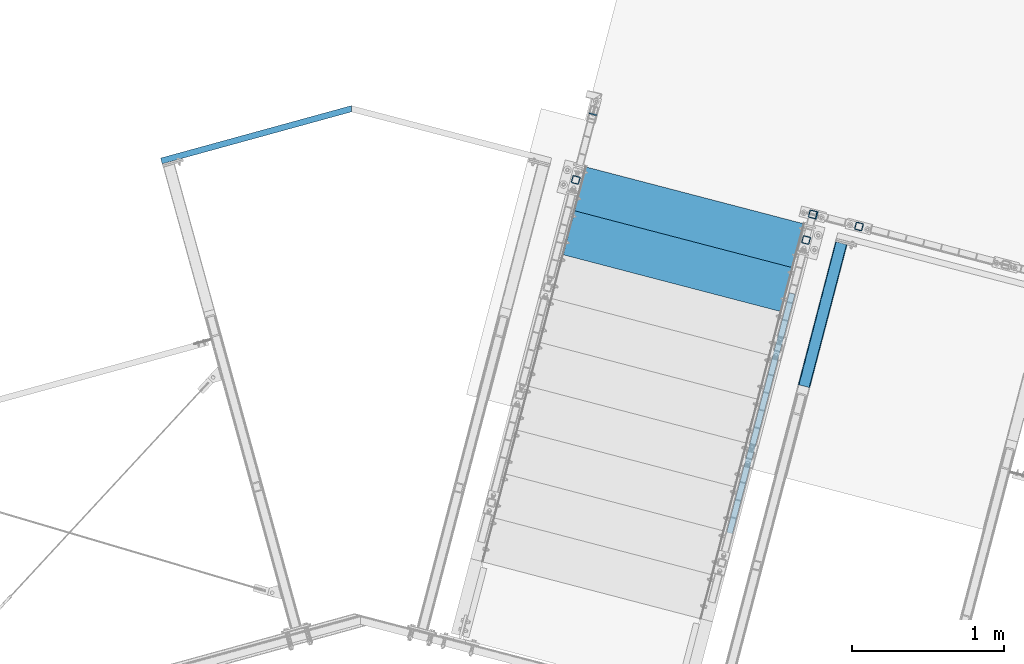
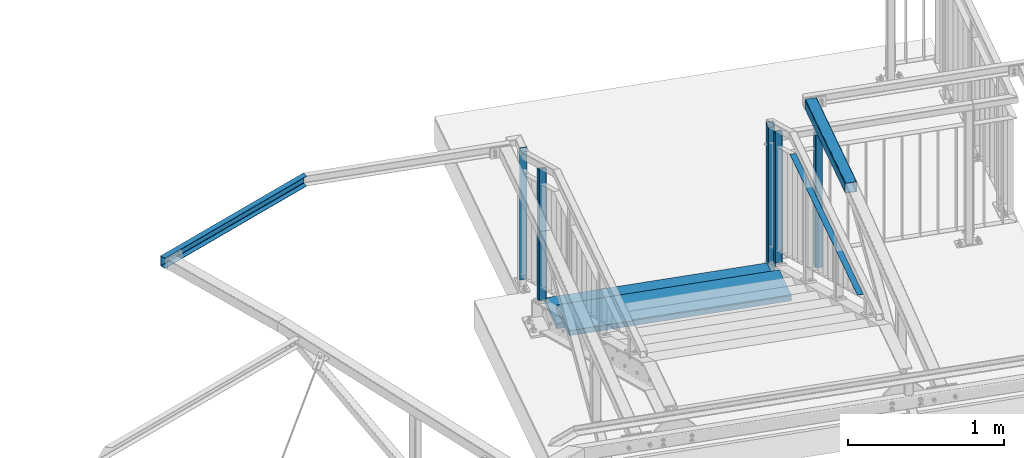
# One storey, part 51 of 169: 11 discrete accessories, 7 elements without a shape of their own.
"""IFC2X3 building model written with IfcOpenShell, lengths in millimetres."""

import ifcopenshell
import ifcopenshell.guid

model = None  # the IFC model being written
_history = None  # IfcOwnerHistory: only IFC2X3 demands one
_inside = {}  # id of a spatial element -> (the spatial element, [elements in it])
_under = {}  # id of a project, library or spatial element -> (it, [spatial elements below it])
_declared = {}  # id of a project -> (the project, [libraries it declares])
_typed = {}  # id of a type object -> (the type object, [elements of that type])
_made_of = {}  # id of a material, layer set ... -> (it, [elements and type objects made of it])


def new_model(schema):
    """Start an empty IFC model of exactly this schema.

    Asked for "IFC4X3", IfcOpenShell would pick the latest addendum, in which some entities
    have other attributes; the version numbers below select the first issue.
    IFC2X3 requires an IfcOwnerHistory on every rooted entity: one is made here for all.
    """
    global model, _history
    if schema == "IFC4X3":
        model = ifcopenshell.file(schema_version=(4, 3, 0, 0))
    else:
        model = ifcopenshell.file(schema=schema)
    _inside.clear()
    _under.clear()
    _declared.clear()
    _typed.clear()
    _made_of.clear()
    _history = None
    if model.schema == "IFC2X3":
        org = make("IfcOrganization", Name="unknown")
        user = make(
            "IfcPersonAndOrganization",
            ThePerson=make("IfcPerson", FamilyName="unknown"),
            TheOrganization=org,
        )
        app = make(
            "IfcApplication",
            ApplicationDeveloper=org,
            Version="unknown",
            ApplicationFullName="unknown",
            ApplicationIdentifier="unknown",
        )
        _history = make(
            "IfcOwnerHistory",
            OwningUser=user,
            OwningApplication=app,
            ChangeAction="ADDED",
            CreationDate=0,
        )
    return model


def make(cls, **values):
    """One entity of the class cls with the attributes given. An attribute that is None is left unset."""
    return model.create_entity(
        cls, **{name: value for name, value in values.items() if value is not None}
    )


def rooted(cls, **values):
    """An entity with a GlobalId (a new one), such as an element, a storey or a relation."""
    return make(cls, GlobalId=ifcopenshell.guid.new(), OwnerHistory=_history, **values)


def si_unit(unit_type, name, prefix=None):
    """IfcSIUnit, for example si_unit("LENGTHUNIT", "METRE", prefix="MILLI")."""
    return make("IfcSIUnit", UnitType=unit_type, Prefix=prefix, Name=name)


def assignment(units):
    """IfcUnitAssignment: the units of a project."""
    return None if units is None else make("IfcUnitAssignment", Units=units)


def point(xyz):
    """IfcCartesianPoint."""
    return None if xyz is None else make("IfcCartesianPoint", Coordinates=xyz)


def direction(xyz):
    """IfcDirection."""
    return None if xyz is None else make("IfcDirection", DirectionRatios=xyz)


def frame(location, z_axis=None, x_axis=None):
    """IfcAxis2Placement3D, a coordinate frame: its origin and axes. An axis left out is left unset."""
    return make(
        "IfcAxis2Placement3D",
        Location=point(location),
        Axis=direction(z_axis),
        RefDirection=direction(x_axis),
    )


def frame_2d(location, x_axis=None):
    """IfcAxis2Placement2D, a coordinate frame in the plane: its origin and x axis."""
    return make(
        "IfcAxis2Placement2D", Location=point(location), RefDirection=direction(x_axis)
    )


def origin_with_axes():
    """The frame at (0, 0, 0) with the z axis (0, 0, 1) and the x axis (1, 0, 0) written out."""
    return frame((0.0, 0.0, 0.0), z_axis=(0.0, 0.0, 1.0), x_axis=(1.0, 0.0, 0.0))


def origin_2d_with_axis():
    """The frame at (0, 0) in the plane with the x axis (1, 0) written out."""
    return frame_2d((0.0, 0.0), x_axis=(1.0, 0.0))


def place(relative_to, where):
    """IfcLocalPlacement: puts the frame where relative to a parent placement (None: the world)."""
    return make(
        "IfcLocalPlacement", PlacementRelTo=relative_to, RelativePlacement=where
    )


def context(
    kind, dimensions, precision=None, world=None, true_north=None, identifier=None
):
    """IfcGeometricRepresentationContext, for example the 3D "Model" context."""
    return make(
        "IfcGeometricRepresentationContext",
        ContextIdentifier=identifier,
        ContextType=kind,
        CoordinateSpaceDimension=dimensions,
        Precision=precision,
        WorldCoordinateSystem=world,
        TrueNorth=true_north,
    )


def subcontext(parent, identifier, kind, view, scale=None):
    """IfcGeometricRepresentationSubContext, for example "Body" below "Model"."""
    return make(
        "IfcGeometricRepresentationSubContext",
        ContextIdentifier=identifier,
        ContextType=kind,
        ParentContext=parent,
        TargetScale=scale,
        TargetView=view,
    )


def project(units=None, contexts=None):
    """IfcProject with its units and contexts."""
    return rooted(
        "IfcProject",
        Name="project",
        RepresentationContexts=contexts,
        UnitsInContext=assignment(units),
    )


def spatial(cls, under=None, at=None, **own):
    """A site, building, storey or space (cls), placed at a placement, below another one or the project."""
    s = rooted(cls, ObjectPlacement=at, **own)
    if under is not None:
        _under.setdefault(under.id(), (under, []))[1].append(s)
    return s


def polyline(points):
    """IfcPolyline through the points."""
    return make("IfcPolyline", Points=[point(p) for p in points])


def profile(cls, at=None, kind="AREA", **sizes):
    """A parametric profile (cls). Its sizes go by their IFC names, for example OverallWidth=200.0."""
    return make(cls, ProfileType=kind, Position=at, **sizes)


def hollow_rectangle(**sizes):
    """IfcRectangleHollowProfileDef."""
    return profile("IfcRectangleHollowProfileDef", **sizes)


def u_section(**sizes):
    """IfcUShapeProfileDef."""
    return profile("IfcUShapeProfileDef", **sizes)


def outline(outer, holes=None, kind="AREA"):
    """IfcArbitraryClosedProfileDef: a profile drawn as a closed curve; with holes, ...WithVoids."""
    if holes is None:
        return make("IfcArbitraryClosedProfileDef", ProfileType=kind, OuterCurve=outer)
    return make(
        "IfcArbitraryProfileDefWithVoids",
        ProfileType=kind,
        OuterCurve=outer,
        InnerCurves=holes,
    )


def extrude(swept, where, along, depth):
    """IfcExtrudedAreaSolid: the profile swept, set in the frame where, extruded along a direction by depth."""
    return make(
        "IfcExtrudedAreaSolid",
        SweptArea=swept,
        Position=where,
        ExtrudedDirection=direction(along),
        Depth=depth,
    )


def clip(a, b, op="DIFFERENCE"):
    """IfcBooleanClippingResult: the solid a cut by the half space b."""
    return make(
        "IfcBooleanClippingResult", Operator=op, FirstOperand=a, SecondOperand=b
    )


def halfspace(plane, agree):
    """IfcHalfSpaceSolid: all space on one side of the plane z = 0 of the frame plane."""
    return make(
        "IfcHalfSpaceSolid",
        BaseSurface=make("IfcPlane", Position=plane),
        AgreementFlag=agree,
    )


def shape(context_of_items, identifier, shape_type, items):
    """IfcShapeRepresentation: the items that make up one representation, for example the "Body"."""
    return make(
        "IfcShapeRepresentation",
        ContextOfItems=context_of_items,
        RepresentationIdentifier=identifier,
        RepresentationType=shape_type,
        Items=items,
    )


def material(Name=None, Category=None):
    """IfcMaterial."""
    return make("IfcMaterial", Name=Name, Category=Category)


def made_of(thing, what):
    """Note that an element or type object is made of a material, layer set ...; save() writes the relation."""
    if what is not None:
        _made_of.setdefault(what.id(), (what, []))[1].append(thing)
    return thing


def type_object(cls, material=None, **own):
    """A type object (cls), such as IfcWallType, which elements share."""
    return made_of(rooted(cls, **own), material)


def element(
    cls,
    number,
    at=None,
    inside=None,
    cuts=None,
    type_object=None,
    material=None,
    context=None,
    identifier="Body",
    shape_type=None,
    held_by="IfcProductDefinitionShape",
    body=None,
    shapes=None,
    **own,
):
    """One element of the class cls, such as IfcWall. Its Tag is "e" and its number.

    at: its placement. inside: the storey or other place that contains it. cuts: it is an
    opening in that element (IfcRelVoidsElement). A single representation is given by context,
    identifier, shape_type and body (its items); several are given by shapes. held_by: the class
    of the entity that holds the representations. save() writes the other relations.
    """
    e = rooted(cls, Tag="e%d" % number, ObjectPlacement=at, **own)
    if body is not None:
        shapes = [shape(context, identifier, shape_type, body)]
    if shapes is not None:
        e.Representation = make(held_by, Representations=shapes)
    if inside is not None:
        _inside.setdefault(inside.id(), (inside, []))[1].append(e)
    if cuts is not None:
        rooted(
            "IfcRelVoidsElement", RelatingBuildingElement=cuts, RelatedOpeningElement=e
        )
    if type_object is not None:
        _typed.setdefault(type_object.id(), (type_object, []))[1].append(e)
    return made_of(e, material)


def aggregate(whole, parts):
    """IfcRelAggregates: a whole, such as a stair, and the parts it consists of."""
    return rooted("IfcRelAggregates", RelatingObject=whole, RelatedObjects=parts)


def save(model, path):
    """Write the relations noted so far, then the file.

    IfcRelAggregates (storeys below a building ...), IfcRelContainedInSpatialStructure (elements
    in a storey), IfcRelDefinesByType, IfcRelAssociatesMaterial and IfcRelDeclares: one each for
    every whole, place, type object, material and project.
    """
    for whole, parts in _under.values():
        aggregate(whole, parts)
    for where, things in _inside.values():
        rooted(
            "IfcRelContainedInSpatialStructure",
            RelatedElements=things,
            RelatingStructure=where,
        )
    for kind, things in _typed.values():
        rooted("IfcRelDefinesByType", RelatedObjects=things, RelatingType=kind)
    for what, things in _made_of.values():
        rooted("IfcRelAssociatesMaterial", RelatedObjects=things, RelatingMaterial=what)
    for by, libraries in _declared.values():
        rooted("IfcRelDeclares", RelatingContext=by, RelatedDefinitions=libraries)
    model.write(path)


model = new_model("IFC2X3")

# Units and contexts
model_context = context("Model", 3, precision=1e-05, world=origin_with_axes())
body_context = subcontext(model_context, "Body", "Model", "MODEL_VIEW")
ifc_project = project(units=[si_unit("LENGTHUNIT", "METRE", prefix="MILLI"), si_unit("AREAUNIT", "SQUARE_METRE"), si_unit("VOLUMEUNIT", "CUBIC_METRE"), si_unit("MASSUNIT", "GRAM", prefix="KILO"), si_unit("TIMEUNIT", "SECOND"), si_unit("PLANEANGLEUNIT", "RADIAN"), si_unit("SOLIDANGLEUNIT", "STERADIAN"), si_unit("THERMODYNAMICTEMPERATUREUNIT", "DEGREE_CELSIUS"), si_unit("LUMINOUSINTENSITYUNIT", "LUMEN")], contexts=[model_context])

# Site, building, storey
site_placement = place(None, origin_with_axes())
site = spatial("IfcSite", under=ifc_project, at=site_placement, Name="Undefined", CompositionType="ELEMENT")
building_placement = place(site_placement, origin_with_axes())
building = spatial("IfcBuilding", under=site, at=building_placement, Name="Undefined", CompositionType="ELEMENT")
storey_placement = place(building_placement, origin_with_axes())
storey = spatial("IfcBuildingStorey", under=building, at=storey_placement, Name="Undefined", CompositionType="ELEMENT", Elevation=0.0)

# Assembly, discrete accessory
assembly_1_placement = place(storey_placement, origin_with_axes())
assembly_1 = element("IfcElementAssembly", 1, at=assembly_1_placement, inside=storey, Name="Steel Assembly", AssemblyPlace="NOTDEFINED", PredefinedType="RIGID_FRAME")
ifc_material_1 = material(Name="STEEL/S235")
discrete_accessory_type_1 = type_object("IfcDiscreteAccessoryType", Name="BLACHA")
discrete_accessory_1_placement = place(assembly_1_placement, frame((-8614.37318032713, 20904.7347867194, 12633.418376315), z_axis=(0.967563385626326, -0.252628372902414, 0.0), x_axis=(0.252628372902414, 0.967563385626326, 0.0)))
discrete_accessory_1 = element("IfcDiscreteAccessory", 2, at=discrete_accessory_1_placement, type_object=discrete_accessory_type_1, material=ifc_material_1, Name="BLACHA", ObjectType="BL5*50", context=body_context, shape_type="SweptSolid", body=[
    extrude(outline(polyline([(0.0, 0.0), (50.0000000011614, 3.27418092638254e-11), (50.0000000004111, 1032.0), (2.92602635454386e-08, 1032.0), (0.0, 0.0)])), frame((6.80888809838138e-19, -2.87858853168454e-21, -2.49999999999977), z_axis=(0.0, 0.0, 1.0), x_axis=(1.0, 0.0, 0.0)), (0.0, 0.0, 1.0), 5.0),
])

assembly_2_placement = place(storey_placement, origin_with_axes())
assembly_2 = element("IfcElementAssembly", 3, at=assembly_2_placement, inside=storey, Name="Steel Assembly", AssemblyPlace="NOTDEFINED", PredefinedType="RIGID_FRAME")
discrete_accessory_2_placement = place(assembly_2_placement, frame((-10060.7096636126, 21589.8430104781, 12633.418376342), z_axis=(0.252628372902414, 0.967563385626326, 0.0), x_axis=(-0.967563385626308, 0.252628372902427, -1.72000000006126e-07)))
discrete_accessory_2 = element("IfcDiscreteAccessory", 4, at=discrete_accessory_2_placement, type_object=discrete_accessory_type_1, material=ifc_material_1, Name="BLACHA", ObjectType="BL5*50", context=body_context, shape_type="SweptSolid", body=[
    extrude(outline(polyline([(0.0, 0.0), (50.0000000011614, 3.27418092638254e-11), (50.0000000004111, 1032.0), (2.92602635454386e-08, 1032.0), (0.0, 0.0)])), frame((6.80888809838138e-19, -2.87858853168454e-21, -2.49999999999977), z_axis=(0.0, 0.0, 1.0), x_axis=(1.0, 0.0, 0.0)), (0.0, 0.0, 1.0), 5.0),
])

assembly_3_placement = place(storey_placement, origin_with_axes())
assembly_3 = element("IfcElementAssembly", 5, at=assembly_3_placement, inside=storey, Name="Steel Assembly", AssemblyPlace="NOTDEFINED", PredefinedType="RIGID_FRAME")
discrete_accessory_type_2 = type_object("IfcDiscreteAccessoryType", Name="BEAM")
discrete_accessory_3_placement = place(assembly_3_placement, frame((-11738.8652666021, 21615.861206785, 13950.4176071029), z_axis=(-2.54700353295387e-10, 0.0, -1.0), x_axis=(-0.964246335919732, -0.26500755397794, 0.0)))
discrete_accessory_3 = element("IfcDiscreteAccessory", 6, at=discrete_accessory_3_placement, type_object=discrete_accessory_type_2, material=ifc_material_1, Name="BEAM", ObjectType="C80*40*3", context=body_context, shape_type="Clipping", body=[
    clip(extrude(u_section(Depth=80.0, FlangeWidth=40.0, WebThickness=3.0, FlangeThickness=3.0, FilletRadius=4.5, at=origin_2d_with_axis()), frame((1236.00000000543, -3.63797880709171e-12, 0.0), z_axis=(-1.0, -3.46944695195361e-18, -1.38777878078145e-17), x_axis=(1.73472347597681e-18, -1.0, 0.0)), (0.0, 0.0, 1.0), 1315.16), halfspace(frame((-57.8071727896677, -19.9999999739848, 0.0), z_axis=(-0.965924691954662, -0.258823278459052, 5.8598698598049e-10), x_axis=(-2.54700353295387e-10, 0.0, -1.0)), False)),
])
aggregate(assembly_3, [discrete_accessory_3])

assembly_4_placement = place(storey_placement, origin_with_axes())
assembly_4 = element("IfcElementAssembly", 7, at=assembly_4_placement, inside=storey, Name="Steel Assembly", AssemblyPlace="NOTDEFINED", PredefinedType="RIGID_FRAME")
discrete_accessory_4_placement = place(assembly_4_placement, frame((-8692.59404615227, 19803.2428395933, 13950.4176077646), z_axis=(-2.54700353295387e-10, 0.0, -1.0), x_axis=(0.252628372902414, 0.967563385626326, 0.0)))
discrete_accessory_4 = element("IfcDiscreteAccessory", 8, at=discrete_accessory_4_placement, type_object=discrete_accessory_type_2, material=ifc_material_1, Name="BEAM", ObjectType="SHS80*4", context=body_context, shape_type="Clipping", body=[
    clip(clip(extrude(hollow_rectangle(XDim=80.0, YDim=80.0, WallThickness=4.0, InnerFilletRadius=4.0, OuterFilletRadius=8.0, at=origin_2d_with_axis()), frame((974.832227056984, -3.58386474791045e-12, 0.0), z_axis=(-1.0, -3.46944695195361e-18, -1.38777878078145e-17), x_axis=(1.73472347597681e-18, -1.0, 0.0)), (0.0, 0.0, 1.0), 1014.34), halfspace(frame((974.832227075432, 0.0, -40.0), z_axis=(-1.0, -3.46944695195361e-18, -1.38777878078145e-17), x_axis=(0.0, 1.0, 0.0)), True)), halfspace(frame((1.02154190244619e-05, 0.00025891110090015, -40.0002588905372), z_axis=(-0.999688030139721, -1.62913579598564e-07, 0.0249768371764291), x_axis=(-1.25063525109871e-09, 0.999999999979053, 6.47253026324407e-06)), False)),
])
aggregate(assembly_4, [discrete_accessory_4])

assembly_5_placement = place(storey_placement, origin_with_axes())
assembly_5 = element("IfcElementAssembly", 9, at=assembly_5_placement, inside=storey, Name="Steel Assembly", AssemblyPlace="NOTDEFINED", PredefinedType="RIGID_FRAME")
discrete_accessory_type_3 = type_object("IfcDiscreteAccessoryType", Name="PORĘCZ")
discrete_accessory_5_placement = place(assembly_5_placement, frame((-9302.56628216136, 18377.8196980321, 13870.4176077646), z_axis=(-2.54700353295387e-10, 0.0, -1.0), x_axis=(0.252628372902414, 0.967563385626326, 0.0)))
discrete_accessory_5 = element("IfcDiscreteAccessory", 10, at=discrete_accessory_5_placement, type_object=discrete_accessory_type_3, material=ifc_material_1, Name="PORĘCZ", ObjectType="BL40*3", context=body_context, shape_type="Clipping", body=[
    clip(clip(extrude(outline(polyline([(472.411797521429, -19.9999999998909), (472.411797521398, 20.0000000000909), (2105.13920695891, 20.0000000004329), (2105.13920695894, -19.9999999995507), (472.411797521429, -19.9999999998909)])), frame((1.81898940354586e-12, -1.77635442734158e-15, -1.50000000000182), z_axis=(0.0, 0.0, 1.0), x_axis=(1.0, 0.0, 0.0)), (0.0, 0.0, 1.0), 3.0), halfspace(frame((2105.49018600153, 2.11002770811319e-10, -1.50000000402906), z_axis=(0.973700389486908, 0.0, 0.227832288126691), x_axis=(1.73472347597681e-18, -1.0, 0.0)), False)), halfspace(frame((469.696509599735, 1000.00000000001, -1.34427734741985), z_axis=(0.443680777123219, -6.25441316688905e-11, -0.89618489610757), x_axis=(-0.89618489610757, 8.07050632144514e-16, -0.443680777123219)), True)),
])

# Discrete accessory
discrete_accessory_type_4 = type_object("IfcDiscreteAccessoryType", Name="STANCHION")
discrete_accessory_6_placement = place(assembly_1_placement, frame((-8329.8035699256, 20856.2724757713, 12555.4183763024), z_axis=(0.0, 0.0, 1.0), x_axis=(-0.252628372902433, -0.967563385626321, 0.0)))
discrete_accessory_6 = element("IfcDiscreteAccessory", 11, at=discrete_accessory_6_placement, type_object=discrete_accessory_type_4, material=ifc_material_1, Name="STANCHION", ObjectType="SHS50*3", context=body_context, shape_type="Clipping", body=[
    clip(clip(extrude(hollow_rectangle(XDim=50.0, YDim=50.0, WallThickness=3.0, InnerFilletRadius=3.0, OuterFilletRadius=6.0, at=origin_2d_with_axis()), frame((0.0, 0.0, 1060.00000001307), z_axis=(-2.54700353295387e-10, 0.0, -1.0), x_axis=(0.0, 1.0, 0.0)), (0.0, 0.0, 1.0), 1040.0), halfspace(frame((999.999999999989, -2.80124368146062e-10, 1060.00000001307), z_axis=(-2.54700353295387e-10, 0.0, -1.0), x_axis=(0.0, 1.0, 0.0)), True)), halfspace(frame((-25.0000000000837, -4.72937244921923e-11, 20.0000001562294), z_axis=(0.0, 0.0, 1.0), x_axis=(0.0, 1.0, 0.0)), True)),
])

aggregate(assembly_1, [discrete_accessory_1, discrete_accessory_6])

discrete_accessory_7_placement = place(assembly_5_placement, frame((-8634.66546409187, 20935.8711516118, 12555.4183762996), z_axis=(0.0, 0.0, 1.0), x_axis=(-0.252628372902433, -0.967563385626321, 0.0)))
discrete_accessory_7 = element("IfcDiscreteAccessory", 12, at=discrete_accessory_7_placement, type_object=discrete_accessory_type_4, material=ifc_material_1, Name="STANCHION", ObjectType="SHS50*3", context=body_context, shape_type="Clipping", body=[
    clip(clip(extrude(hollow_rectangle(XDim=50.0, YDim=50.0, WallThickness=3.0, InnerFilletRadius=3.0, OuterFilletRadius=6.0, at=origin_2d_with_axis()), frame((0.0, 0.0, 1193.31673986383), z_axis=(-2.54700353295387e-10, 0.0, -1.0), x_axis=(0.0, 1.0, 0.0)), (0.0, 0.0, 1.0), 1173.32), halfspace(frame((-24.9999999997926, 3.64998413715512e-08, 1208.83583714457), z_axis=(-0.527408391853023, 0.0, -0.849611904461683), x_axis=(1.73472347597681e-18, -1.0, 0.0)), True)), halfspace(frame((-25.0000000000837, -4.72937244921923e-11, 20.0000001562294), z_axis=(0.0, 0.0, 1.0), x_axis=(0.0, 1.0, 0.0)), True)),
])

discrete_accessory_8_placement = place(assembly_5_placement, frame((-8678.79758494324, 20766.8457033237, 12753.2210868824), z_axis=(0.0, 0.0, 1.0), x_axis=(-0.967563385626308, 0.252628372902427, -1.72000000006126e-07)))
discrete_accessory_8 = element("IfcDiscreteAccessory", 13, at=discrete_accessory_8_placement, type_object=discrete_accessory_type_4, material=ifc_material_1, Name="STANCHION", ObjectType="SHS50*3", context=body_context, shape_type="Clipping", body=[
    clip(clip(extrude(hollow_rectangle(XDim=50.0, YDim=50.0, WallThickness=3.0, InnerFilletRadius=3.0, OuterFilletRadius=6.0, at=origin_2d_with_axis()), frame((0.0, 0.0, 1079.05078446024), z_axis=(-2.54700353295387e-10, 0.0, -1.0), x_axis=(0.0, 1.0, 0.0)), (0.0, 0.0, 1.0), 1079.72), halfspace(frame((999.99999999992, 11.0920194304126, 1059.59537751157), z_axis=(8.07050632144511e-16, 0.443680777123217, -0.896184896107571), x_axis=(-6.25441316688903e-11, 0.896184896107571, 0.443680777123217)), True)), halfspace(frame((-24.9999999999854, -7.27595761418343e-12, 24.2772946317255), z_axis=(-8.96961418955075e-10, -0.442122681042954, 0.896954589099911), x_axis=(-4.02729710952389e-10, 0.896954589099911, 0.442122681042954)), True)),
])

aggregate(assembly_5, [discrete_accessory_7, discrete_accessory_5, discrete_accessory_8])

discrete_accessory_9_placement = place(assembly_2_placement, frame((-10197.8721003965, 21163.472248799, 12760.2210868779), z_axis=(0.0, 0.0, 1.0), x_axis=(-0.967563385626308, 0.252628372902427, -1.72000000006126e-07)))
discrete_accessory_9 = element("IfcDiscreteAccessory", 14, at=discrete_accessory_9_placement, type_object=discrete_accessory_type_4, material=ifc_material_1, Name="STANCHION", ObjectType="SHS50*3", context=body_context, shape_type="Clipping", body=[
    clip(clip(extrude(hollow_rectangle(XDim=50.0, YDim=50.0, WallThickness=3.0, InnerFilletRadius=3.0, OuterFilletRadius=6.0, at=origin_2d_with_axis()), frame((0.0, 0.0, 1072.05078454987), z_axis=(-2.54700353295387e-10, 0.0, -1.0), x_axis=(0.0, 1.0, 0.0)), (0.0, 0.0, 1.0), 1079.72), halfspace(frame((2.24645191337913e-09, -25.0000000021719, 1034.72703893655), z_axis=(0.0, -0.44368077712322, 0.89618489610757), x_axis=(1.0, 0.0, 0.0)), False)), halfspace(frame((-25.0000000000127, 2.94676283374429e-10, 17.2772943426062), z_axis=(-8.96961418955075e-10, -0.442122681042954, 0.896954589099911), x_axis=(-4.02729710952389e-10, 0.896954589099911, 0.442122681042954)), True)),
])

aggregate(assembly_2, [discrete_accessory_2, discrete_accessory_9])

# Assembly, discrete accessory
assembly_6_placement = place(storey_placement, origin_with_axes())
assembly_6 = element("IfcElementAssembly", 15, at=assembly_6_placement, inside=storey, Name="Steel Assembly", AssemblyPlace="NOTDEFINED", PredefinedType="RIGID_FRAME")
ifc_material_2 = material(Name="STEEL/S235JR")
discrete_accessory_type_5 = type_object("IfcDiscreteAccessoryType", Name="STOPNIE")
discrete_accessory_10_placement = place(assembly_6_placement, frame((-10242.514371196, 20814.3656685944, 12841.1249424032), z_axis=(-2.54700353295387e-10, 0.0, -1.0), x_axis=(0.967563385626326, -0.252628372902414, 0.0)))
discrete_accessory_10 = element("IfcDiscreteAccessory", 16, at=discrete_accessory_10_placement, type_object=discrete_accessory_type_5, material=ifc_material_2, Name="STOPNIE", ObjectType="PL40*300", context=body_context, shape_type="SweptSolid", body=[
    extrude(outline(polyline([(-3.09228198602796e-11, 150.000000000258), (1479.99999863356, 149.999999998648), (1479.99999863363, -150.000000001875), (3.45607986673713e-11, -150.00000000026), (-3.09228198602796e-11, 150.000000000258)])), frame((0.0, 0.0, -20.0), z_axis=(0.0, 0.0, 1.0), x_axis=(1.0, 0.0, 0.0)), (0.0, 0.0, 1.0), 40.0),
])
aggregate(assembly_6, [discrete_accessory_10])

assembly_7_placement = place(storey_placement, origin_with_axes())
assembly_7 = element("IfcElementAssembly", 17, at=assembly_7_placement, inside=storey, Name="Steel Assembly", AssemblyPlace="NOTDEFINED", PredefinedType="RIGID_FRAME")
discrete_accessory_11_placement = place(assembly_7_placement, frame((-10166.9631659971, 21103.7258027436, 12693.7133592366), z_axis=(-2.54700353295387e-10, 0.0, -1.0), x_axis=(0.967563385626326, -0.252628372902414, 0.0)))
discrete_accessory_11 = element("IfcDiscreteAccessory", 18, at=discrete_accessory_11_placement, type_object=discrete_accessory_type_5, material=ifc_material_2, Name="STOPNIE", ObjectType="PL40*300", context=body_context, shape_type="SweptSolid", body=[
    extrude(outline(polyline([(-3.09228198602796e-11, 150.000000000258), (1479.99999863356, 149.999999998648), (1479.99999863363, -150.000000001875), (3.45607986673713e-11, -150.00000000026), (-3.09228198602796e-11, 150.000000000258)])), frame((0.0, 0.0, -20.0), z_axis=(0.0, 0.0, 1.0), x_axis=(1.0, 0.0, 0.0)), (0.0, 0.0, 1.0), 40.0),
])
aggregate(assembly_7, [discrete_accessory_11])

save(model, "model.ifc")
